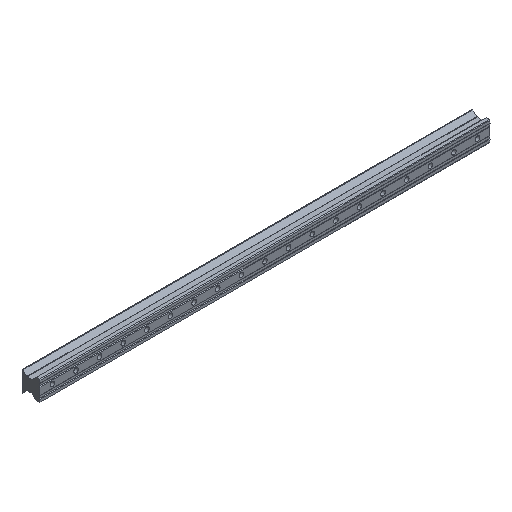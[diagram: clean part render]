
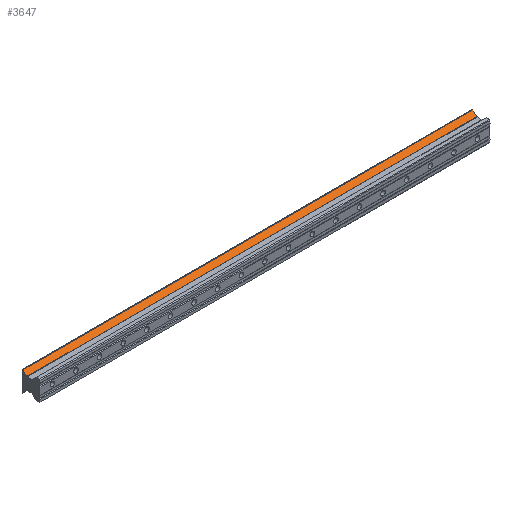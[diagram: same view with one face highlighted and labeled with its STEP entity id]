
A CAD part, isometric view. The second image highlights one B-rep face of the part: STEP entity #3647.
In plain terms, the highlighted planar face has unit normal (0, -0.707, 0.707) as drawn and (0.707, -0.707, 0) by its records, which use the part's own axes.
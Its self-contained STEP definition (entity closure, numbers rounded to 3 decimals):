
#222=PLANE('',#3889);
#413=FACE_OUTER_BOUND('',#627,.T.);
#627=EDGE_LOOP('',(#3220,#3221,#3222,#3223));
#938=LINE('',#7221,#1296);
#974=LINE('',#7300,#1332);
#989=LINE('',#7340,#1347);
#993=LINE('',#7348,#1351);
#1296=VECTOR('',#4502,10.);
#1332=VECTOR('',#4556,12.314);
#1347=VECTOR('',#4595,10.);
#1351=VECTOR('',#4607,10.);
#1787=VERTEX_POINT('',#7218);
#1788=VERTEX_POINT('',#7220);
#1821=VERTEX_POINT('',#7297);
#1822=VERTEX_POINT('',#7299);
#2281=EDGE_CURVE('',#1787,#1788,#938,.T.);
#2321=EDGE_CURVE('',#1822,#1821,#974,.T.);
#2342=EDGE_CURVE('',#1821,#1788,#989,.T.);
#2346=EDGE_CURVE('',#1822,#1787,#993,.T.);
#3220=ORIENTED_EDGE('',*,*,#2346,.F.);
#3221=ORIENTED_EDGE('',*,*,#2321,.T.);
#3222=ORIENTED_EDGE('',*,*,#2342,.T.);
#3223=ORIENTED_EDGE('',*,*,#2281,.F.);
#3647=ADVANCED_FACE('',(#413),#222,.T.);
#3889=AXIS2_PLACEMENT_3D('',#7347,#4605,#4606);
#4502=DIRECTION('',(-0.707,-0.707,0.));
#4556=DIRECTION('',(-0.707,-0.707,0.));
#4595=DIRECTION('',(0.,0.,-1.));
#4605=DIRECTION('center_axis',(0.707,-0.707,0.));
#4606=DIRECTION('ref_axis',(0.,0.,-1.));
#4607=DIRECTION('',(0.,0.,-1.));
#7218=CARTESIAN_POINT('',(44.854,37.801,-890.));
#7220=CARTESIAN_POINT('',(36.146,29.094,-890.));
#7221=CARTESIAN_POINT('',(44.854,37.801,-890.));
#7297=CARTESIAN_POINT('',(36.146,29.094,110.));
#7299=CARTESIAN_POINT('',(44.854,37.801,110.));
#7300=CARTESIAN_POINT('',(44.854,37.801,110.));
#7340=CARTESIAN_POINT('',(36.146,29.094,57.6));
#7347=CARTESIAN_POINT('Origin',(44.854,37.801,0.));
#7348=CARTESIAN_POINT('',(44.854,37.801,57.6));
